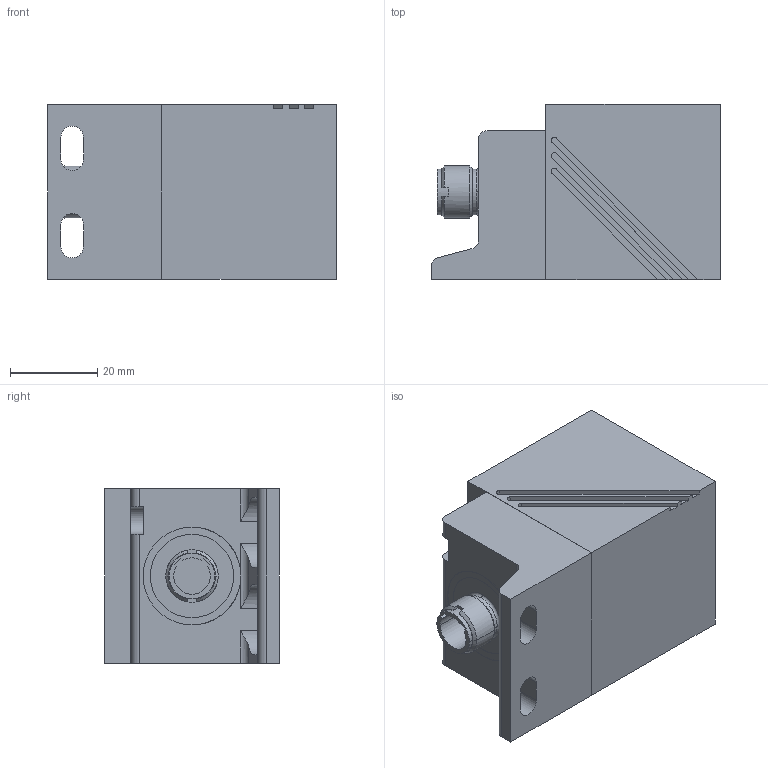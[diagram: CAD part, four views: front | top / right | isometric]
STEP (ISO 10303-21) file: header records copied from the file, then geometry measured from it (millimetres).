
FILE_DESCRIPTION( ( '' ), '1' );
FILE_NAME( '//partserver001.servicenet/client_exchange/iodir/jobs/output/wkb12396258_no0/STEP/im0054vorne_2_03.stp', '2008-10-06T13:20:04', ( '' ), ( '' ), ' ', ' ', ' ' );
FILE_SCHEMA( ( 'CONFIG_CONTROL_DESIGN' ) );
Length unit declared in the file: millimetre
Products named in the file (3): 1; 2; 3
Bounding box: 66.15 x 40 x 40 mm (x, y, z)
Volume: 85902.7 mm3; surface area: 17475.1 mm2
Topology: 3 solids, 3 shells, 179 faces, 454 edges, 301 vertices
Faces by surface type: plane 100, cylinder 71, cone 6, torus 2
Entity records: 5593 total; most frequent: CARTESIAN_POINT 981, DIRECTION 971, ORIENTED_EDGE 908, EDGE_CURVE 454, AXIS2_PLACEMENT_3D 343, VERTEX_POINT 301, LINE 285, VECTOR 285
